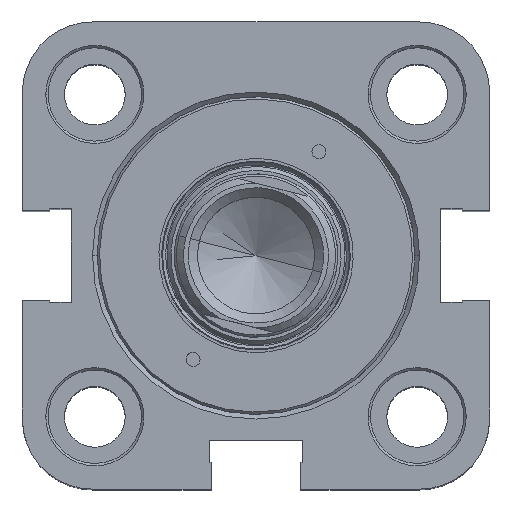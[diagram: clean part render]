
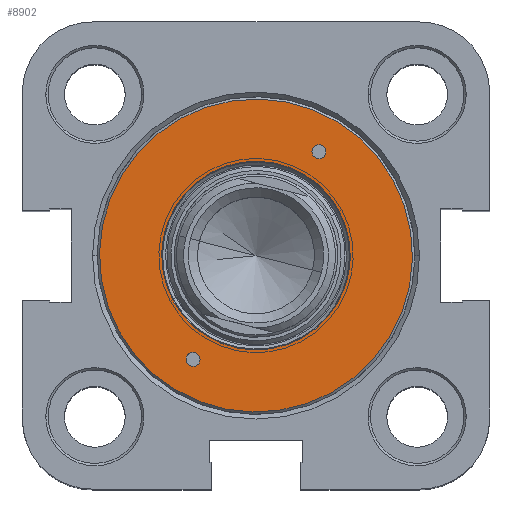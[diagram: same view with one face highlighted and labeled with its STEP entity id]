
A CAD part, top view. The second image highlights one B-rep face of the part: STEP entity #8902.
In plain terms, the highlighted planar face has unit normal (0, 0, 1) as drawn and (-1, 0, 0) by its records, which use the part's own axes.
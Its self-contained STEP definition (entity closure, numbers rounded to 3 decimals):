
#123 = DIRECTION ( 'NONE',  ( 1., 0., 0. ) ) ;
#323 = AXIS2_PLACEMENT_3D ( 'NONE', #16601, #13140, #8603 ) ;
#744 = ORIENTED_EDGE ( 'NONE', *, *, #2206, .T. ) ;
#1084 = DIRECTION ( 'NONE',  ( 0., 0., -1. ) ) ;
#1255 = CARTESIAN_POINT ( 'NONE',  ( 0., 0., 27.5 ) ) ;
#1501 = CIRCLE ( 'NONE', #11934, 33.5 ) ;
#1582 = EDGE_CURVE ( 'NONE', #6448, #7155, #20011, .T. ) ;
#1704 = CARTESIAN_POINT ( 'NONE',  ( 0., 0., -27.5 ) ) ;
#2206 = EDGE_CURVE ( 'NONE', #9080, #9562, #12681, .T. ) ;
#2641 = CIRCLE ( 'NONE', #323, 1.5 ) ;
#2680 = DIRECTION ( 'NONE',  ( -1., 0., 0. ) ) ;
#2753 = CARTESIAN_POINT ( 'NONE',  ( 0., 0., -20.2 ) ) ;
#3039 = CARTESIAN_POINT ( 'NONE',  ( 0., 0., 20.2 ) ) ;
#3353 = AXIS2_PLACEMENT_3D ( 'NONE', #11855, #18280, #4446 ) ;
#3582 = FACE_BOUND ( 'NONE', #6699, .T. ) ;
#4304 = AXIS2_PLACEMENT_3D ( 'NONE', #10559, #17008, #1084 ) ;
#4406 = ORIENTED_EDGE ( 'NONE', *, *, #19308, .T. ) ;
#4446 = DIRECTION ( 'NONE',  ( 0., 0., 1. ) ) ;
#4846 = CARTESIAN_POINT ( 'NONE',  ( 0., 0., -33.5 ) ) ;
#5024 = VERTEX_POINT ( 'NONE', #2753 ) ;
#5937 = EDGE_CURVE ( 'NONE', #16497, #18433, #19528, .T. ) ;
#6191 = EDGE_LOOP ( 'NONE', ( #16288, #15793 ) ) ;
#6369 = DIRECTION ( 'NONE',  ( 0., 0., -1. ) ) ;
#6448 = VERTEX_POINT ( 'NONE', #1255 ) ;
#6567 = DIRECTION ( 'NONE',  ( 0., 0., -1. ) ) ;
#6699 = EDGE_LOOP ( 'NONE', ( #12872, #19533 ) ) ;
#6962 = DIRECTION ( 'NONE',  ( 1., 0., 0. ) ) ;
#7155 = VERTEX_POINT ( 'NONE', #17570 ) ;
#7321 = EDGE_CURVE ( 'NONE', #18433, #16497, #11564, .T. ) ;
#7968 = CARTESIAN_POINT ( 'NONE',  ( 0., 0., 0. ) ) ;
#8156 = FACE_OUTER_BOUND ( 'NONE', #12914, .T. ) ;
#8170 = EDGE_CURVE ( 'NONE', #9562, #9080, #1501, .T. ) ;
#8313 = DIRECTION ( 'NONE',  ( 0., 0., 1. ) ) ;
#8317 = DIRECTION ( 'NONE',  ( -1., 0., 0. ) ) ;
#8603 = DIRECTION ( 'NONE',  ( 0., 0., -1. ) ) ;
#8699 = CARTESIAN_POINT ( 'NONE',  ( 0., 0., -24.5 ) ) ;
#8902 = ADVANCED_FACE ( 'NONE', ( #3582, #16466, #13007, #8156 ), #18144, .F. ) ;
#9080 = VERTEX_POINT ( 'NONE', #4846 ) ;
#9308 = CARTESIAN_POINT ( 'NONE',  ( 0., 0., 33.5 ) ) ;
#9562 = VERTEX_POINT ( 'NONE', #9308 ) ;
#9982 = CARTESIAN_POINT ( 'NONE',  ( 0., 0., 0. ) ) ;
#10427 = EDGE_LOOP ( 'NONE', ( #4406, #18069 ) ) ;
#10559 = CARTESIAN_POINT ( 'NONE',  ( 0., 0., 0. ) ) ;
#11564 = CIRCLE ( 'NONE', #11912, 1.5 ) ;
#11693 = CARTESIAN_POINT ( 'NONE',  ( 0., 0., 0. ) ) ;
#11814 = EDGE_CURVE ( 'NONE', #5024, #18987, #18893, .T. ) ;
#11855 = CARTESIAN_POINT ( 'NONE',  ( 0., 0., -26. ) ) ;
#11912 = AXIS2_PLACEMENT_3D ( 'NONE', #13367, #19767, #8313 ) ;
#11934 = AXIS2_PLACEMENT_3D ( 'NONE', #9982, #8317, #14854 ) ;
#12190 = CARTESIAN_POINT ( 'NONE',  ( 0., 0., 26. ) ) ;
#12270 = AXIS2_PLACEMENT_3D ( 'NONE', #12190, #2680, #18626 ) ;
#12274 = AXIS2_PLACEMENT_3D ( 'NONE', #14604, #123, #6567 ) ;
#12295 = EDGE_CURVE ( 'NONE', #7155, #6448, #2641, .T. ) ;
#12681 = CIRCLE ( 'NONE', #20063, 33.5 ) ;
#12872 = ORIENTED_EDGE ( 'NONE', *, *, #7321, .F. ) ;
#12914 = EDGE_LOOP ( 'NONE', ( #744, #13540 ) ) ;
#13007 = FACE_BOUND ( 'NONE', #10427, .T. ) ;
#13140 = DIRECTION ( 'NONE',  ( -1., 0., 0. ) ) ;
#13367 = CARTESIAN_POINT ( 'NONE',  ( 0., 0., -26. ) ) ;
#13540 = ORIENTED_EDGE ( 'NONE', *, *, #8170, .T. ) ;
#14604 = CARTESIAN_POINT ( 'NONE',  ( 0., 17.5, 0. ) ) ;
#14854 = DIRECTION ( 'NONE',  ( 0., 0., -1. ) ) ;
#15793 = ORIENTED_EDGE ( 'NONE', *, *, #12295, .F. ) ;
#16288 = ORIENTED_EDGE ( 'NONE', *, *, #1582, .F. ) ;
#16447 = DIRECTION ( 'NONE',  ( 0., 0., -1. ) ) ;
#16466 = FACE_BOUND ( 'NONE', #6191, .T. ) ;
#16497 = VERTEX_POINT ( 'NONE', #1704 ) ;
#16601 = CARTESIAN_POINT ( 'NONE',  ( 0., 0., 26. ) ) ;
#17008 = DIRECTION ( 'NONE',  ( 1., 0., 0. ) ) ;
#17570 = CARTESIAN_POINT ( 'NONE',  ( 0., 0., 24.5 ) ) ;
#18069 = ORIENTED_EDGE ( 'NONE', *, *, #11814, .T. ) ;
#18144 = PLANE ( 'NONE',  #12274 ) ;
#18280 = DIRECTION ( 'NONE',  ( -1., 0., 0. ) ) ;
#18433 = VERTEX_POINT ( 'NONE', #8699 ) ;
#18626 = DIRECTION ( 'NONE',  ( 0., 0., -1. ) ) ;
#18893 = CIRCLE ( 'NONE', #20556, 20.2 ) ;
#18987 = VERTEX_POINT ( 'NONE', #3039 ) ;
#19308 = EDGE_CURVE ( 'NONE', #18987, #5024, #20452, .T. ) ;
#19528 = CIRCLE ( 'NONE', #3353, 1.5 ) ;
#19533 = ORIENTED_EDGE ( 'NONE', *, *, #5937, .F. ) ;
#19767 = DIRECTION ( 'NONE',  ( -1., 0., 0. ) ) ;
#20011 = CIRCLE ( 'NONE', #12270, 1.5 ) ;
#20063 = AXIS2_PLACEMENT_3D ( 'NONE', #7968, #20807, #6369 ) ;
#20452 = CIRCLE ( 'NONE', #4304, 20.2 ) ;
#20556 = AXIS2_PLACEMENT_3D ( 'NONE', #11693, #6962, #16447 ) ;
#20807 = DIRECTION ( 'NONE',  ( -1., 0., 0. ) ) ;
